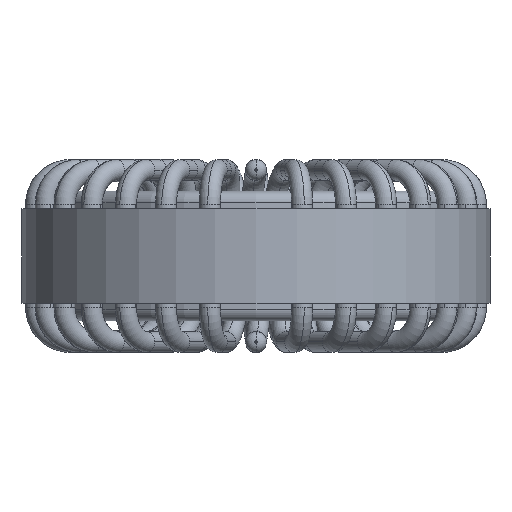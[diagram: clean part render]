
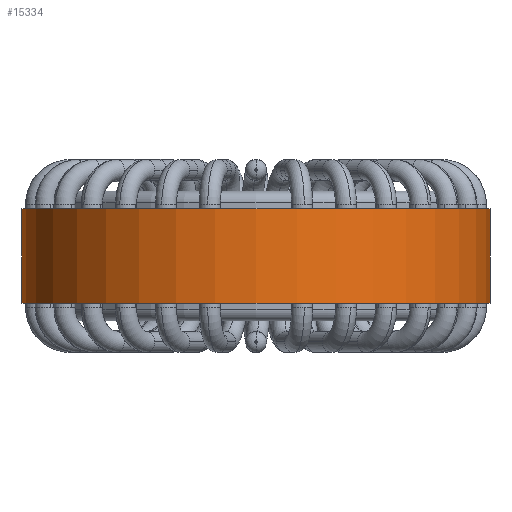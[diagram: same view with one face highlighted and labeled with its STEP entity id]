
A CAD part, front view. The second image highlights one B-rep face of the part: STEP entity #15334.
In plain terms, the highlighted cylindrical face has radius 20.38 mm (diameter 40.76 mm), a partial arc.
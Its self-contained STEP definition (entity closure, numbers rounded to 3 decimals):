
#447 = EDGE_CURVE ( 'NONE', #6222, #17627, #33074, .T. ) ;
#619 = VECTOR ( 'NONE', #44841, 1000. ) ;
#1193 = CYLINDRICAL_SURFACE ( 'NONE', #4300, 20.38 ) ;
#2975 = DIRECTION ( 'NONE',  ( 1., 0., 0. ) ) ;
#3994 = LINE ( 'NONE', #20171, #16140 ) ;
#4300 = AXIS2_PLACEMENT_3D ( 'NONE', #24073, #5843, #19878 ) ;
#5557 = LINE ( 'NONE', #9492, #619 ) ;
#5843 = DIRECTION ( 'NONE',  ( 0., 0., -1. ) ) ;
#6222 = VERTEX_POINT ( 'NONE', #8069 ) ;
#7808 = CARTESIAN_POINT ( 'NONE',  ( -20.38, 0., 4.1 ) ) ;
#8069 = CARTESIAN_POINT ( 'NONE',  ( -20.38, 0., -4.1 ) ) ;
#9492 = CARTESIAN_POINT ( 'NONE',  ( -20.38, 0., 4.1 ) ) ;
#9666 = DIRECTION ( 'NONE',  ( 0., 0., -1. ) ) ;
#12563 = CARTESIAN_POINT ( 'NONE',  ( 20.38, 0., 4.1 ) ) ;
#13389 = FACE_OUTER_BOUND ( 'NONE', #40303, .T. ) ;
#15334 = ADVANCED_FACE ( 'NONE', ( #13389 ), #1193, .T. ) ;
#16079 = CARTESIAN_POINT ( 'NONE',  ( 20.38, 0., -4.1 ) ) ;
#16140 = VECTOR ( 'NONE', #9666, 1000. ) ;
#17627 = VERTEX_POINT ( 'NONE', #16079 ) ;
#17855 = ORIENTED_EDGE ( 'NONE', *, *, #25482, .F. ) ;
#19878 = DIRECTION ( 'NONE',  ( -1., 0., 0. ) ) ;
#20171 = CARTESIAN_POINT ( 'NONE',  ( 20.38, 0., 4.1 ) ) ;
#21251 = CIRCLE ( 'NONE', #39831, 20.38 ) ;
#23319 = DIRECTION ( 'NONE',  ( 1., 0., 0. ) ) ;
#24073 = CARTESIAN_POINT ( 'NONE',  ( 0., 0., 4.1 ) ) ;
#25482 = EDGE_CURVE ( 'NONE', #39574, #17627, #3994, .T. ) ;
#26081 = AXIS2_PLACEMENT_3D ( 'NONE', #27518, #45099, #2975 ) ;
#26880 = DIRECTION ( 'NONE',  ( 0., 0., 1. ) ) ;
#27518 = CARTESIAN_POINT ( 'NONE',  ( 0., 0., -4.1 ) ) ;
#28298 = EDGE_CURVE ( 'NONE', #37297, #39574, #21251, .T. ) ;
#28796 = CARTESIAN_POINT ( 'NONE',  ( 0., 0., 4.1 ) ) ;
#32538 = ORIENTED_EDGE ( 'NONE', *, *, #28298, .F. ) ;
#33074 = CIRCLE ( 'NONE', #26081, 20.38 ) ;
#34453 = ORIENTED_EDGE ( 'NONE', *, *, #447, .T. ) ;
#37297 = VERTEX_POINT ( 'NONE', #7808 ) ;
#39574 = VERTEX_POINT ( 'NONE', #12563 ) ;
#39831 = AXIS2_PLACEMENT_3D ( 'NONE', #28796, #26880, #23319 ) ;
#39907 = ORIENTED_EDGE ( 'NONE', *, *, #43089, .T. ) ;
#40303 = EDGE_LOOP ( 'NONE', ( #17855, #32538, #39907, #34453 ) ) ;
#43089 = EDGE_CURVE ( 'NONE', #37297, #6222, #5557, .T. ) ;
#44841 = DIRECTION ( 'NONE',  ( 0., 0., -1. ) ) ;
#45099 = DIRECTION ( 'NONE',  ( 0., 0., 1. ) ) ;
